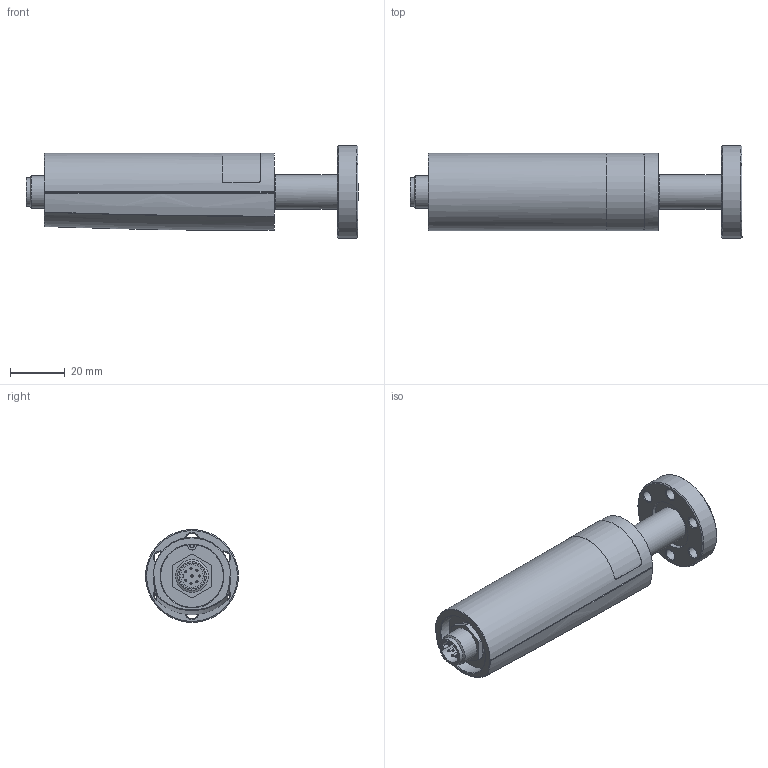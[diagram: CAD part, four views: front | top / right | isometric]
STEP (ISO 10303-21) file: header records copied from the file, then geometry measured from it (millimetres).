
FILE_DESCRIPTION(/* description */ (''),/* implementation_level */ '2;1');
FILE_NAME(/* name */ 'W:\308-750_Porter\CDG020D_16-CF_M12.stp',/* time_stamp */ '2016-05-12T10:06:36+02:00',/* author */ ('BEM'),/* organization */ (''),/* preprocessor_version */ 'ST-DEVELOPER v15.2',/* originating_system */ 'Autodesk Inventor 2014',/* authorisation */ '');
FILE_SCHEMA (('AUTOMOTIVE_DESIGN { 1 0 10303 214 3 1 1 }'));
Length unit declared in the file: millimetre
Products named in the file (1): Bauteil6
Bounding box: 121.4 x 34 x 34 mm (x, y, z)
Volume: 31021.8 mm3; surface area: 31165.6 mm2
Topology: 1 solids, 3 shells, 770 faces, 2085 edges, 1312 vertices
Faces by surface type: plane 442, cylinder 238, torus 42, cone 33, bspline 13, sphere 2
Full cylindrical faces by diameter (mm): 0.6 x4, 0.75 x8, 0.8 x8, 0.85 x8, 1 x2, 1.1 x1, 1.4 x1, 2.013 x2, 4.3 x6, 9.45 x1, 9.55 x1, 10.2 x2, 10.5 x2, 12 x1, 12.4 x1, 12.7 x1, 13.5 x1, 14 x2, 14.4 x1, 16 x1, 17.5 x1, 18.6 x1, 21.3 x1, 21.4 x1, 23 x1, 34 x1
Entity records: 25886 total; most frequent: CARTESIAN_POINT 5910, DIRECTION 3976, ORIENTED_EDGE 3930, EDGE_CURVE 1963, AXIS2_PLACEMENT_3D 1383, VERTEX_POINT 1291, LINE 1210, VECTOR 1210
